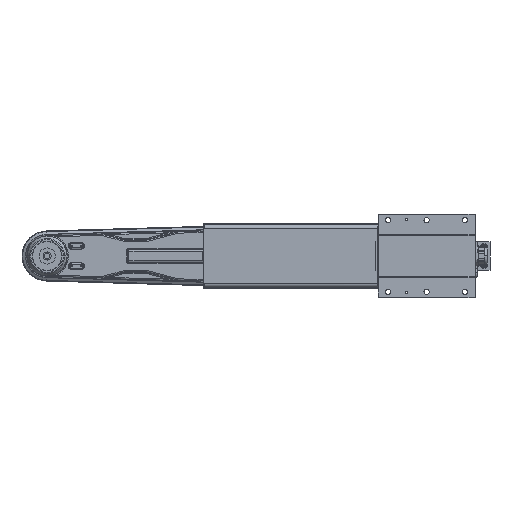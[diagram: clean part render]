
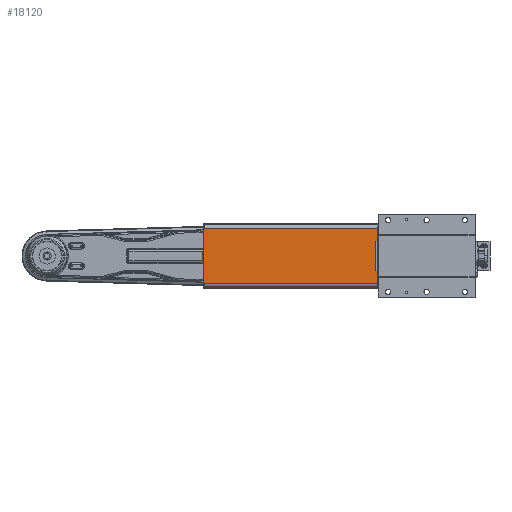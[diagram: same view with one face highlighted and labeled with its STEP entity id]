
A CAD part, front view. The second image highlights one B-rep face of the part: STEP entity #18120.
In plain terms, the highlighted planar face has unit normal (0, -1, 0).
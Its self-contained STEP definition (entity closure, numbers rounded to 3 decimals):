
#16908=CARTESIAN_POINT('',(-510.,194.,-68.345));
#16909=CARTESIAN_POINT('',(-510.,194.,-68.323));
#16910=CARTESIAN_POINT('',(-510.,194.,-68.279));
#16911=CARTESIAN_POINT('',(-510.,194.,-68.235));
#16912=CARTESIAN_POINT('',(-510.,194.,-68.213));
#16914=DIRECTION('',(1.,0.,0.));
#16915=VECTOR('',#16914,2.);
#16916=CARTESIAN_POINT('',(-512.,194.,68.213));
#16917=LINE('',#16916,#16915);
#16918=CARTESIAN_POINT('',(-510.,194.,68.213));
#16919=CARTESIAN_POINT('',(-510.,194.,68.237));
#16920=CARTESIAN_POINT('',(-510.,194.,68.285));
#16921=CARTESIAN_POINT('',(-510.,194.,68.333));
#16922=CARTESIAN_POINT('',(-510.,194.,68.357));
#16995=CARTESIAN_POINT('',(0.,194.,0.));
#16996=DIRECTION('',(0.,-1.,0.));
#16997=DIRECTION('',(-0.27,0.,0.963));
#16998=AXIS2_PLACEMENT_3D('',#16995,#16996,#16997);
#17012=CARTESIAN_POINT('',(0.,194.,0.));
#17013=DIRECTION('',(0.,-1.,0.));
#17014=DIRECTION('',(-0.5,0.,0.866));
#17015=AXIS2_PLACEMENT_3D('',#17012,#17013,#17014);
#17042=DIRECTION('',(1.,0.,0.));
#17043=VECTOR('',#17042,490.767);
#17044=CARTESIAN_POINT('',(-510.,194.,-68.345));
#17045=LINE('',#17044,#17043);
#17122=DIRECTION('',(0.,0.,-1.));
#17123=VECTOR('',#17122,136.425);
#17124=CARTESIAN_POINT('',(-512.,194.,68.213));
#17125=LINE('',#17124,#17123);
#17155=DIRECTION('',(1.,0.,0.));
#17156=VECTOR('',#17155,2.);
#17157=CARTESIAN_POINT('',(-512.,194.,-68.213));
#17158=LINE('',#17157,#17156);
#17191=DIRECTION('',(-1.,0.,0.));
#17192=VECTOR('',#17191,490.809);
#17193=CARTESIAN_POINT('',(-19.191,194.,68.357));
#17194=LINE('',#17193,#17192);
#17344=CARTESIAN_POINT('',(-512.,194.,68.213));
#17345=VERTEX_POINT('',#17344);
#17346=CARTESIAN_POINT('',(-512.,194.,-68.213));
#17347=VERTEX_POINT('',#17346);
#17360=CARTESIAN_POINT('',(-19.191,194.,68.357));
#17361=CARTESIAN_POINT('',(-35.5,194.,61.488));
#17362=VERTEX_POINT('',#17360);
#17363=VERTEX_POINT('',#17361);
#17368=CARTESIAN_POINT('',(-19.233,194.,-68.345));
#17369=VERTEX_POINT('',#17368);
#17415=VERTEX_POINT('',#16918);
#17416=VERTEX_POINT('',#16922);
#17418=CARTESIAN_POINT('',(-510.,194.001,-68.345));
#17420=VERTEX_POINT('',#17418);
#17421=VERTEX_POINT('',#16912);
#18095=CARTESIAN_POINT('',(-217.5,194.,0.006));
#18096=DIRECTION('',(0.,1.,0.));
#18097=DIRECTION('',(1.,0.,0.));
#18098=AXIS2_PLACEMENT_3D('',#18095,#18096,#18097);
#18099=PLANE('',#18098);
#18101=ORIENTED_EDGE('',*,*,#18100,.T.);
#18103=ORIENTED_EDGE('',*,*,#18102,.F.);
#18105=ORIENTED_EDGE('',*,*,#18104,.F.);
#18107=ORIENTED_EDGE('',*,*,#18106,.T.);
#18109=ORIENTED_EDGE('',*,*,#18108,.T.);
#18111=ORIENTED_EDGE('',*,*,#18110,.F.);
#18113=ORIENTED_EDGE('',*,*,#18112,.T.);
#18115=ORIENTED_EDGE('',*,*,#18114,.T.);
#18117=ORIENTED_EDGE('',*,*,#18116,.F.);
#18118=EDGE_LOOP('',(#18101,#18103,#18105,#18107,#18109,#18111,#18113,#18115,
#18117));
#18119=FACE_OUTER_BOUND('',#18118,.F.);
#16913=B_SPLINE_CURVE_WITH_KNOTS('',3,(#16908,#16909,#16910,#16911,#16912),
.UNSPECIFIED.,.F.,.F.,(4,1,4),(0.,0.5,1.),.UNSPECIFIED.);
#16923=B_SPLINE_CURVE_WITH_KNOTS('',3,(#16918,#16919,#16920,#16921,#16922),
.UNSPECIFIED.,.F.,.F.,(4,1,4),(0.,0.5,1.),.UNSPECIFIED.);
#16999=CIRCLE('',#16998,71.);
#17016=CIRCLE('',#17015,71.);
#18100=EDGE_CURVE('',#17420,#17421,#16913,.T.);
#18102=EDGE_CURVE('',#17347,#17421,#17158,.T.);
#18104=EDGE_CURVE('',#17345,#17347,#17125,.T.);
#18106=EDGE_CURVE('',#17345,#17415,#16917,.T.);
#18108=EDGE_CURVE('',#17415,#17416,#16923,.T.);
#18110=EDGE_CURVE('',#17362,#17416,#17194,.T.);
#18112=EDGE_CURVE('',#17362,#17363,#16999,.T.);
#18114=EDGE_CURVE('',#17363,#17369,#17016,.T.);
#18116=EDGE_CURVE('',#17420,#17369,#17045,.T.);
#18120=ADVANCED_FACE('',(#18119),#18099,.F.);
